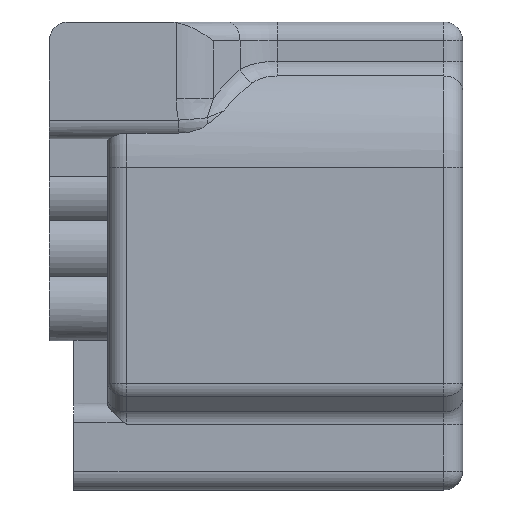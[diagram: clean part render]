
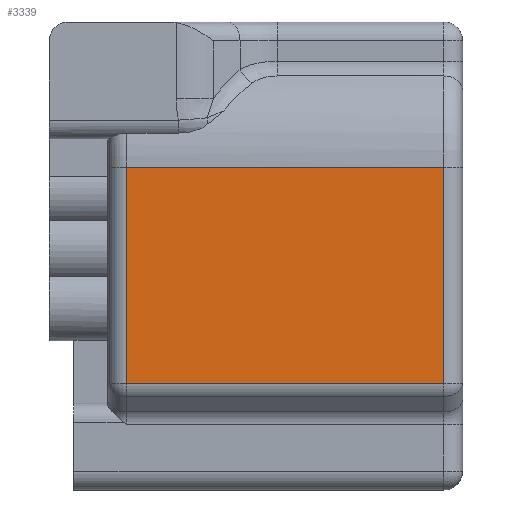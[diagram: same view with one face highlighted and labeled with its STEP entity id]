
A CAD part, front view. The second image highlights one B-rep face of the part: STEP entity #3339.
In plain terms, the highlighted planar face has unit normal (0, -1, 0).
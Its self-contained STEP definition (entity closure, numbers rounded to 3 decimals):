
#1311=CARTESIAN_POINT('Vertex',(-1.,-6.1,1.3)) ;
#1331=CARTESIAN_POINT('Line Origine',(-1.,-6.1,-3.4)) ;
#1335=CARTESIAN_POINT('Vertex',(-1.,-6.1,-10.157)) ;
#3249=CARTESIAN_POINT('Line Origine',(-9.4,-6.1,1.3)) ;
#3253=CARTESIAN_POINT('Vertex',(-17.8,-6.1,1.3)) ;
#3316=CARTESIAN_POINT('Axis2P3D Location',(0.,-6.1,1.3)) ;
#3321=CARTESIAN_POINT('Line Origine',(-17.8,-6.1,-4.429)) ;
#3325=CARTESIAN_POINT('Vertex',(-17.8,-6.1,-10.157)) ;
#3328=CARTESIAN_POINT('Line Origine',(-9.4,-6.1,-10.157)) ;
#1332=DIRECTION('Vector Direction',(0.,0.,-1.)) ;
#3250=DIRECTION('Vector Direction',(1.,0.,0.)) ;
#3317=DIRECTION('Axis2P3D Direction',(0.,1.,0.)) ;
#3318=DIRECTION('Axis2P3D XDirection',(0.,0.,-1.)) ;
#3322=DIRECTION('Vector Direction',(0.,0.,-1.)) ;
#3329=DIRECTION('Vector Direction',(-1.,0.,0.)) ;
#3319=AXIS2_PLACEMENT_3D('Plane Axis2P3D',#3316,#3317,#3318) ;
#3334=ORIENTED_EDGE('',*,*,#3327,.T.) ;
#3335=ORIENTED_EDGE('',*,*,#3332,.F.) ;
#3336=ORIENTED_EDGE('',*,*,#1337,.F.) ;
#3337=ORIENTED_EDGE('',*,*,#3255,.T.) ;
#1333=VECTOR('Line Direction',#1332,1.) ;
#3251=VECTOR('Line Direction',#3250,1.) ;
#3323=VECTOR('Line Direction',#3322,1.) ;
#3330=VECTOR('Line Direction',#3329,1.) ;
#3339=ADVANCED_FACE('\X2\FF8AFF9FFF70FF82\X0\ \X2\FF8EFF9EFF83FF9EFF68FF70\X0\',(#3338),#3320,.F.) ;
#1337=EDGE_CURVE('',#1312,#1336,#1334,.T.) ;
#3255=EDGE_CURVE('',#1312,#3254,#3252,.F.) ;
#3327=EDGE_CURVE('',#3254,#3326,#3324,.T.) ;
#3332=EDGE_CURVE('',#1336,#3326,#3331,.T.) ;
#3333=EDGE_LOOP('',(#3334,#3335,#3336,#3337)) ;
#3338=FACE_OUTER_BOUND('',#3333,.T.) ;
#1334=LINE('Line',#1331,#1333) ;
#3252=LINE('Line',#3249,#3251) ;
#3324=LINE('Line',#3321,#3323) ;
#3331=LINE('Line',#3328,#3330) ;
#3320=PLANE('',#3319) ;
#1312=VERTEX_POINT('',#1311) ;
#1336=VERTEX_POINT('',#1335) ;
#3254=VERTEX_POINT('',#3253) ;
#3326=VERTEX_POINT('',#3325) ;
